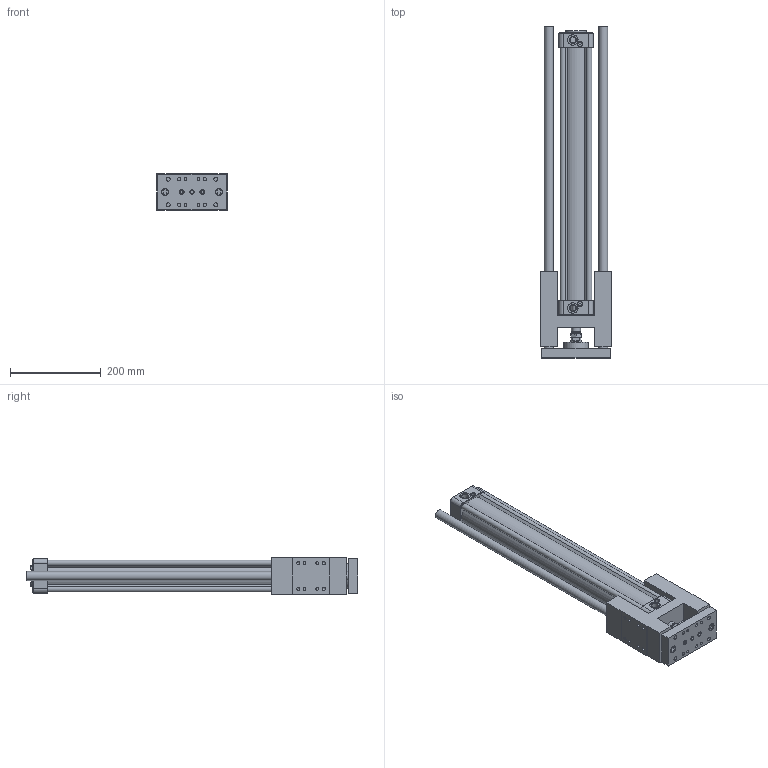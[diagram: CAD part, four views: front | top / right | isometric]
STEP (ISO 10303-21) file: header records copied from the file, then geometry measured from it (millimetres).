
FILE_DESCRIPTION((''),'2;1');
FILE_NAME('I:\3D電子目錄\氣缸\GHB(U)\GHB(U)\GHB(U)63\GHB(U)63x500.stp','2007-10-22T13:16:11',('Administrator'),(''),'Autodesk Inventor 11','Autodesk Inventor 11','');
FILE_SCHEMA(('AUTOMOTIVE_DESIGN { 1 0 10303 214 1 1 1 1 }'));
Length unit declared in the file: millimetre
Products named in the file (1): GHB(U)63
Bounding box: 156 x 730 x 80 mm (x, y, z)
Volume: 2521513.4 mm3; surface area: 631574.8 mm2
Topology: 1 solids, 13 shells, 789 faces, 1754 edges, 1088 vertices
Faces by surface type: plane 303, bspline 237, cylinder 159, cone 88, torus 2
Full cylindrical faces by diameter (mm): 2.5 x2, 6 x4, 6.647 x4, 6.7 x2, 6.75 x4, 7.25 x4, 7.4 x4, 7.5 x2, 8.5 x9, 9 x2, 9.8 x4, 10 x5, 11.5 x1, 11.9 x1, 12 x3, 13 x4, 14 x8, 14.5 x2, 16 x3, 20 x4, 23 x3, 25 x1, 26 x2, 45 x1, 54 x1, 63 x1
Entity records: 22867 total; most frequent: CARTESIAN_POINT 7086, DIRECTION 3132, ORIENTED_EDGE 3076, EDGE_CURVE 1538, AXIS2_PLACEMENT_3D 1207, EDGE_LOOP 1075, VERTEX_POINT 1047, FACE_OUTER_BOUND 789
